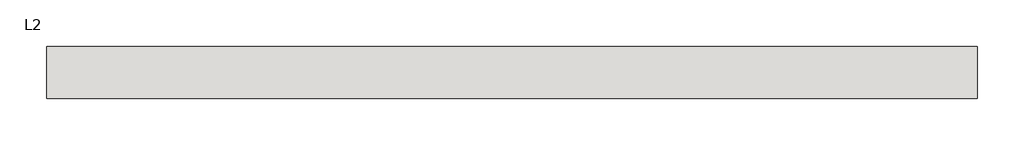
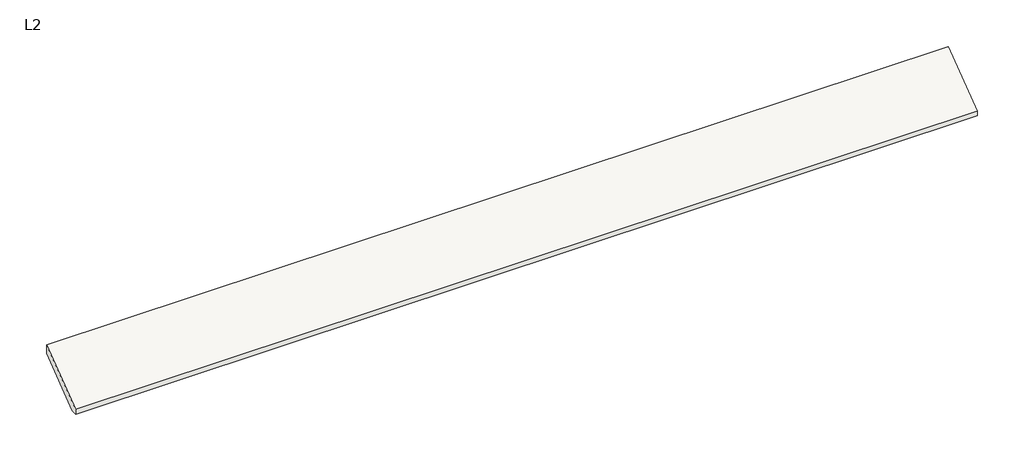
# One storey: 1 roof.
"""IFC4 building model written with IfcOpenShell, lengths in millimetres."""

from ifc_helpers import new_model, si_unit, frame, origin, place, context, project, spatial, polyline, outline, extrude, element, save

model = new_model("IFC4")

# Units and contexts
model_context = context("Model", 3, world=origin())
ifc_project = project(units=[si_unit("LENGTHUNIT", "METRE", prefix="MILLI")], contexts=[model_context])

# Site, building, storey
site = spatial("IfcSite", under=ifc_project)
building = spatial("IfcBuilding", under=site)
storey = spatial("IfcBuildingStorey", under=building, Name="L2", Elevation=3657.6)

# Roof
placement = place(None, origin())
element("IfcRoof", 1, ObjectType="Generic - 9\"", at=placement, inside=storey, context=model_context, shape_type="SweptSolid", body=[
    extrude(outline(polyline([(13824.5781195, 3600.45), (15394.3124431, 4777.7507427), (15394.3124431, 4492.0007427), (14002.3781195, 3448.05), (13824.5781195, 3448.05), (13824.5781195, 3600.45)])), frame((3561.3862497, 0.0, 0.0), z_axis=(1.0, 0.0, 0.0), x_axis=(0.0, 1.0, 0.0)), (0.0, 0.0, 1.0), 28041.6),
])

save(model, "model.ifc")
